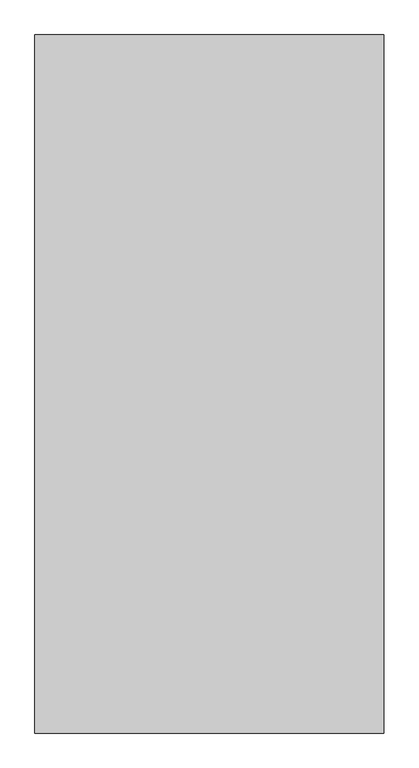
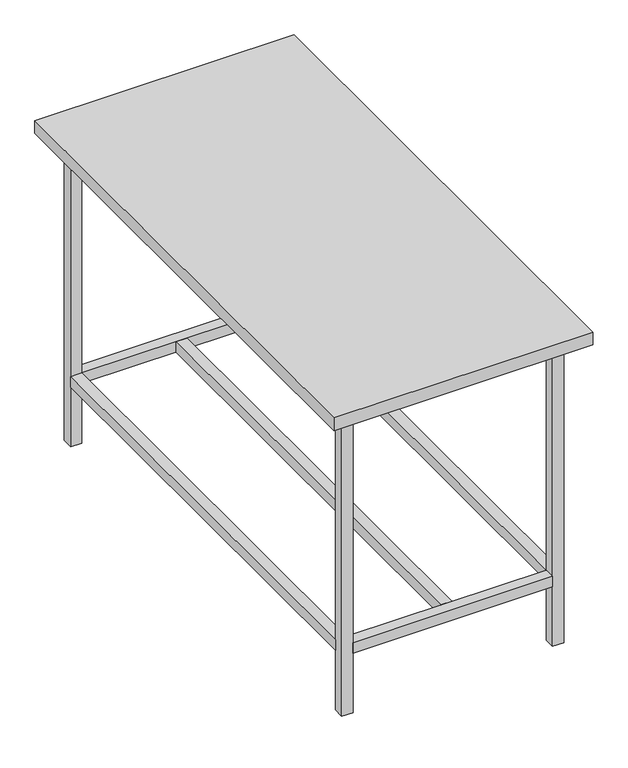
"""IFC4 building model written with IfcOpenShell, lengths in millimetres: furniture geometry, 2.3 Mesa de laboratorio de química y biología : 2.3 Mesa de laboratorio de química y biología."""

from ifc_helpers import new_model, si_unit, frame, origin, place, context, project, spatial, polyline, outline, extrude, faceted_brep, source, transform, mapped, element, save


def furniture_e09c71f7(model_context):
    return source(origin(), model_context, "Body", "SolidModel", [
        extrude(outline(polyline([(-269.9890137, 619.9874878), (-269.9890137, -619.9798584), (-300.0106812, -619.9798584), (-300.0106812, 619.9874878), (-269.9890137, 619.9874878)])), frame((0.0, 0.0, 832.0007341), z_axis=(0.0, 0.0, 1.0), x_axis=(1.0, 0.0, 0.0)), (0.0, 0.0, 1.0), 31.9977386),
        extrude(outline(polyline([(300.0335693, 619.9874878), (300.0335693, -619.9798584), (270.0119019, -619.9798584), (270.0119019, 619.9874878), (300.0335693, 619.9874878)])), frame((0.0, 0.0, 832.0007341), z_axis=(0.0, 0.0, 1.0), x_axis=(1.0, 0.0, 0.0)), (0.0, 0.0, 1.0), 31.9977386),
        extrude(outline(polyline([(15.0108337, 619.9798584), (15.0108337, -619.9798584), (-15.0108337, -619.9798584), (-15.0108337, 619.9798584), (15.0108337, 619.9798584)])), frame((0.0, 0.0, 170.0134277), z_axis=(0.0, 0.0, 1.0), x_axis=(1.0, 0.0, 0.0)), (0.0, 0.0, 1.0), 30.0292969),
        extrude(outline(polyline([(300.0335693, 619.9798584), (300.0335693, -619.9798584), (270.0119019, -619.9798584), (270.0119019, 619.9798584), (300.0335693, 619.9798584)])), frame((0.0, 0.0, 170.0134277), z_axis=(0.0, 0.0, 1.0), x_axis=(1.0, 0.0, 0.0)), (0.0, 0.0, 1.0), 30.0292969),
        extrude(outline(polyline([(-269.9890137, 619.9798584), (-269.9890137, -619.9798584), (-300.0106812, -619.9798584), (-300.0106812, 619.9798584), (-269.9890137, 619.9798584)])), frame((0.0, 0.0, 170.0134277), z_axis=(0.0, 0.0, 1.0), x_axis=(1.0, 0.0, 0.0)), (0.0, 0.0, 1.0), 30.0292969),
        faceted_brep([(349.9984741, -700.012207, 900.0092149), (349.9984741, 700.012207, 900.0092149), (-349.9984741, 700.012207, 900.0092149), (-349.9984741, -700.012207, 900.0092149), (349.9984741, 700.012207, 863.9984727), (349.9984741, -700.012207, 863.9984727), (-349.9984741, -700.012207, 863.9984727), (-349.9984741, 700.012207, 863.9984727)], [[[0, 1, 2, 3]], [[4, 5, 6, 7]], [[7, 2, 1, 4]], [[6, 3, 2, 7]], [[5, 0, 3, 6]], [[4, 1, 0, 5]]]),
        faceted_brep([(270.0042725, 650.0091553, 200.0427246), (270.0042725, 619.9874878, 200.0427246), (270.0042725, 619.9874878, 170.0134277), (270.0042725, 650.0091553, 170.0134277), (-269.9892521, 619.9798584, 170.0133681), (-269.9892521, 650.0091553, 170.0133681), (-269.9892521, 619.9798584, 200.042665), (-269.9892521, 650.0091553, 200.042665)], [[[0, 1, 2, 3]], [[2, 4, 5, 3]], [[1, 6, 4, 2]], [[0, 7, 6, 1]], [[3, 5, 7, 0]], [[7, 5, 4, 6]]]),
        faceted_brep([(270.0042725, -650.0091553, 200.0427246), (270.0042725, -650.0091553, 170.0134277), (270.0042725, -619.9798584, 170.0134277), (270.0042725, -619.9798584, 200.0426948), (-269.9890137, -650.0091553, 170.0133681), (-269.9890137, -619.9798584, 170.0133681), (-269.9890137, -619.9798584, 200.042665), (-269.9890137, -650.0091553, 200.042665)], [[[0, 1, 2, 3]], [[2, 1, 4, 5]], [[3, 2, 5, 6]], [[1, 0, 7, 4]], [[0, 3, 6, 7]], [[7, 6, 5, 4]]]),
        faceted_brep([(270.0042725, 650.0091553, 832.0007324), (-269.9892521, 650.0091553, 832.0006728), (-269.9892521, 650.0091553, 862.0299697), (270.0042725, 650.0091553, 862.0300293), (270.0042725, 619.9798584, 832.0007324), (-269.9892521, 619.9798584, 832.0006728), (-269.9892521, 619.9798584, 862.0299697), (270.0042725, 619.9798584, 862.0300293)], [[[0, 1, 2, 3]], [[4, 5, 1, 0]], [[2, 1, 5, 6]], [[3, 2, 6, 7]], [[3, 7, 4, 0]], [[7, 6, 5, 4]]]),
        faceted_brep([(270.0042725, -650.0091553, 832.0007324), (270.0042725, -650.0091553, 862.0300293), (-269.9890137, -650.0091553, 862.0299697), (-269.9890137, -650.0091553, 832.0006728), (270.0042725, -619.9798584, 832.0007324), (270.0042725, -619.9798584, 862.0300293), (-269.9890137, -619.9798584, 862.0299697), (-269.9890137, -619.9798584, 832.0006728)], [[[0, 1, 2, 3]], [[1, 0, 4, 5]], [[1, 5, 6, 2]], [[2, 6, 7, 3]], [[4, 0, 3, 7]], [[5, 4, 7, 6]]]),
        faceted_brep([(-300.0106812, 650.0091553, 0.0), (-300.0106812, 650.0091553, 882.0039034), (-269.9813843, 650.0091553, 882.0039034), (-269.9813843, 650.0091553, 0.0), (-300.0106812, 619.9798584, 0.0), (-300.0106812, 619.9798584, 882.0039034), (-269.9813843, 619.9798584, 882.0039034), (-269.9813843, 619.9798584, 0.0)], [[[0, 1, 2, 3]], [[4, 5, 1, 0]], [[2, 1, 5, 6]], [[3, 2, 6, 7]], [[3, 7, 4, 0]], [[7, 6, 5, 4]]]),
        faceted_brep([(-300.0106812, -650.0091553, 0.0), (-269.9813843, -650.0091553, 0.0), (-269.9813843, -650.0091553, 882.0039034), (-300.0106812, -650.0091553, 882.0039034), (-300.0106812, -619.9798584, 0.0), (-269.9813843, -619.9798584, 0.0), (-269.9813843, -619.9798584, 882.0039034), (-300.0106812, -619.9798584, 882.0039034)], [[[0, 1, 2, 3]], [[1, 0, 4, 5]], [[1, 5, 6, 2]], [[2, 6, 7, 3]], [[4, 0, 3, 7]], [[5, 4, 7, 6]]]),
        faceted_brep([(270.0119019, 650.0091553, 0.0), (270.0119019, 650.0091553, 882.0039034), (300.0411987, 650.0091553, 882.0039034), (300.0411987, 650.0091553, 0.0), (270.0119019, 619.9798584, 0.0), (270.0119019, 619.9798584, 882.0039034), (300.0411987, 619.9798584, 882.0039034), (300.0411987, 619.9798584, 0.0)], [[[0, 1, 2, 3]], [[4, 5, 1, 0]], [[2, 1, 5, 6]], [[3, 2, 6, 7]], [[3, 7, 4, 0]], [[7, 6, 5, 4]]]),
        faceted_brep([(270.0119019, -650.0091553, 0.0), (300.0411987, -650.0091553, 0.0), (300.0411987, -650.0091553, 882.0039034), (270.0119019, -650.0091553, 882.0039034), (270.0119019, -619.9798584, 0.0), (300.0411987, -619.9798584, 0.0), (300.0411987, -619.9798584, 882.0039034), (270.0119019, -619.9798584, 882.0039034)], [[[0, 1, 2, 3]], [[1, 0, 4, 5]], [[1, 5, 6, 2]], [[2, 6, 7, 3]], [[4, 0, 3, 7]], [[5, 4, 7, 6]]]),
    ])


if __name__ == "__main__":
    model = new_model("IFC4")
    model_context = context("Model", 3, world=origin())
    ifc_project = project(units=[si_unit("LENGTHUNIT", "METRE", prefix="MILLI")], contexts=[model_context])
    site = spatial("IfcSite", under=ifc_project)
    building = spatial("IfcBuilding", under=site)
    placement = place(None, origin())
    furniture_shape = furniture_e09c71f7(model_context)
    element("IfcFurniture", 1, ObjectType="2.3 Mesa de laboratorio de química y biología : 2.3 Mesa de laboratorio de química y biología", at=placement, inside=building, context=model_context, shape_type="MappedRepresentation", body=[
        mapped(furniture_shape, transform((0.0, 0.0, 0.0), x_axis=(1.0, 0.0, 0.0), y_axis=(0.0, 1.0, 0.0), z_axis=(0.0, 0.0, 1.0))),
    ])
    save(model, "model.ifc")
